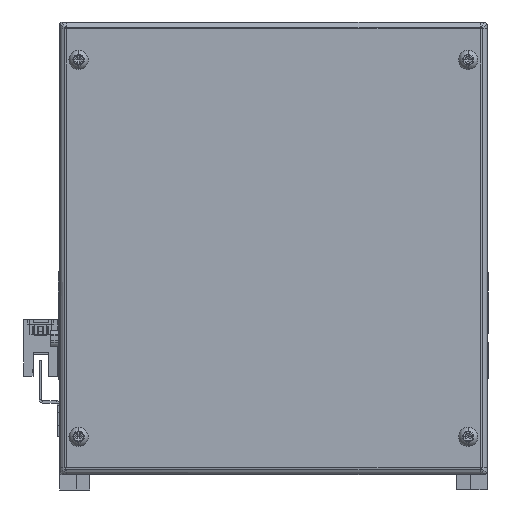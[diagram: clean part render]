
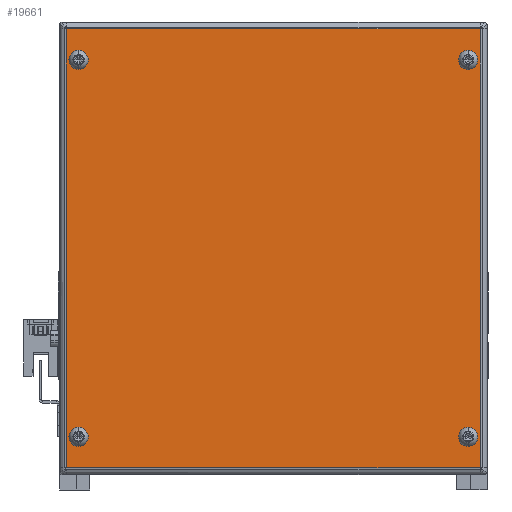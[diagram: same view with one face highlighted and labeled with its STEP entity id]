
A CAD part, front view. The second image highlights one B-rep face of the part: STEP entity #19661.
In plain terms, the highlighted planar face has unit normal (0, -1, 0) as drawn and (0, 0, -1) by its records, which use the part's own axes.
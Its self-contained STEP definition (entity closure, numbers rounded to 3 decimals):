
#459 = EDGE_LOOP ( 'NONE', ( #777, #11965 ) ) ;
#580 = VECTOR ( 'NONE', #26051, 1000. ) ;
#777 = ORIENTED_EDGE ( 'NONE', *, *, #16979, .F. ) ;
#1010 = CARTESIAN_POINT ( 'NONE',  ( -86.233, 45.206, -242.5 ) ) ;
#1752 = EDGE_CURVE ( 'NONE', #6280, #13502, #31637, .T. ) ;
#2369 = CARTESIAN_POINT ( 'NONE',  ( 67.767, -103.794, -242.5 ) ) ;
#2514 = VERTEX_POINT ( 'NONE', #34650 ) ;
#2813 = VERTEX_POINT ( 'NONE', #21665 ) ;
#2887 = CARTESIAN_POINT ( 'NONE',  ( -86.233, 42.956, -242.5 ) ) ;
#3166 = DIRECTION ( 'NONE',  ( 0., 0., -1. ) ) ;
#3483 = EDGE_CURVE ( 'NONE', #22415, #36189, #34590, .T. ) ;
#3502 = EDGE_LOOP ( 'NONE', ( #35186, #35844 ) ) ;
#3505 = DIRECTION ( 'NONE',  ( 0., -1., 0. ) ) ;
#3599 = DIRECTION ( 'NONE',  ( 0., 0., -1. ) ) ;
#3795 = CARTESIAN_POINT ( 'NONE',  ( -86.233, -101.544, -242.5 ) ) ;
#4118 = AXIS2_PLACEMENT_3D ( 'NONE', #34635, #25732, #8110 ) ;
#4556 = DIRECTION ( 'NONE',  ( 0., 1., 0. ) ) ;
#5776 = EDGE_CURVE ( 'NONE', #29867, #2813, #22424, .T. ) ;
#6259 = CIRCLE ( 'NONE', #10371, 2.25 ) ;
#6280 = VERTEX_POINT ( 'NONE', #8804 ) ;
#6406 = DIRECTION ( 'NONE',  ( 0., 0., -1. ) ) ;
#6721 = FACE_BOUND ( 'NONE', #36551, .T. ) ;
#6993 = VERTEX_POINT ( 'NONE', #16996 ) ;
#6995 = VERTEX_POINT ( 'NONE', #2887 ) ;
#7003 = DIRECTION ( 'NONE',  ( 0., 0., -1. ) ) ;
#7010 = CARTESIAN_POINT ( 'NONE',  ( -91.026, 57.469, -242.5 ) ) ;
#8110 = DIRECTION ( 'NONE',  ( 0., -1., 0. ) ) ;
#8527 = LINE ( 'NONE', #11034, #580 ) ;
#8804 = CARTESIAN_POINT ( 'NONE',  ( -90.996, 57.469, -242.5 ) ) ;
#9044 = FACE_BOUND ( 'NONE', #9271, .T. ) ;
#9222 = CARTESIAN_POINT ( 'NONE',  ( 67.767, 45.206, -242.5 ) ) ;
#9271 = EDGE_LOOP ( 'NONE', ( #23975, #12822 ) ) ;
#9720 = CARTESIAN_POINT ( 'NONE',  ( 72.56, -116.058, -242.5 ) ) ;
#9778 = CARTESIAN_POINT ( 'NONE',  ( 67.767, -101.544, -242.5 ) ) ;
#10371 = AXIS2_PLACEMENT_3D ( 'NONE', #14789, #3166, #24068 ) ;
#10846 = EDGE_LOOP ( 'NONE', ( #30780, #13701, #12883, #26566 ) ) ;
#11034 = CARTESIAN_POINT ( 'NONE',  ( 72.531, 57.499, -242.5 ) ) ;
#11965 = ORIENTED_EDGE ( 'NONE', *, *, #5776, .F. ) ;
#11998 = VECTOR ( 'NONE', #4556, 1000. ) ;
#12225 = EDGE_CURVE ( 'NONE', #36189, #22415, #29362, .T. ) ;
#12386 = CARTESIAN_POINT ( 'NONE',  ( -86.233, -103.794, -242.5 ) ) ;
#12503 = DIRECTION ( 'NONE',  ( 0., 0., -1. ) ) ;
#12822 = ORIENTED_EDGE ( 'NONE', *, *, #30595, .F. ) ;
#12883 = ORIENTED_EDGE ( 'NONE', *, *, #14373, .T. ) ;
#13116 = CARTESIAN_POINT ( 'NONE',  ( -86.233, -106.044, -242.5 ) ) ;
#13446 = LINE ( 'NONE', #28296, #11998 ) ;
#13502 = VERTEX_POINT ( 'NONE', #17726 ) ;
#13701 = ORIENTED_EDGE ( 'NONE', *, *, #35622, .T. ) ;
#14154 = CIRCLE ( 'NONE', #19064, 2.25 ) ;
#14224 = DIRECTION ( 'NONE',  ( 0., 0., -1. ) ) ;
#14373 = EDGE_CURVE ( 'NONE', #6993, #6280, #13446, .T. ) ;
#14789 = CARTESIAN_POINT ( 'NONE',  ( -86.233, 45.206, -242.5 ) ) ;
#14850 = VERTEX_POINT ( 'NONE', #13116 ) ;
#15354 = LINE ( 'NONE', #9720, #25664 ) ;
#15399 = VERTEX_POINT ( 'NONE', #18656 ) ;
#15494 = DIRECTION ( 'NONE',  ( 0., 0., -1. ) ) ;
#16506 = CIRCLE ( 'NONE', #21363, 2.25 ) ;
#16544 = FACE_OUTER_BOUND ( 'NONE', #10846, .T. ) ;
#16979 = EDGE_CURVE ( 'NONE', #2813, #29867, #14154, .T. ) ;
#16996 = CARTESIAN_POINT ( 'NONE',  ( -90.996, -116.058, -242.5 ) ) ;
#16999 = PLANE ( 'NONE',  #4118 ) ;
#17494 = CARTESIAN_POINT ( 'NONE',  ( 67.767, -106.044, -242.5 ) ) ;
#17726 = CARTESIAN_POINT ( 'NONE',  ( 72.531, 57.469, -242.5 ) ) ;
#18176 = DIRECTION ( 'NONE',  ( 0., -1., 0. ) ) ;
#18656 = CARTESIAN_POINT ( 'NONE',  ( -86.233, 47.456, -242.5 ) ) ;
#19064 = AXIS2_PLACEMENT_3D ( 'NONE', #33083, #12503, #3505 ) ;
#19379 = EDGE_CURVE ( 'NONE', #6995, #15399, #6259, .T. ) ;
#19514 = ORIENTED_EDGE ( 'NONE', *, *, #35107, .F. ) ;
#19661 = ADVANCED_FACE ( 'NONE', ( #24935, #9044, #6721, #28654, #16544 ), #16999, .T. ) ;
#21023 = CARTESIAN_POINT ( 'NONE',  ( 67.767, 47.456, -242.5 ) ) ;
#21363 = AXIS2_PLACEMENT_3D ( 'NONE', #31066, #7003, #28123 ) ;
#21665 = CARTESIAN_POINT ( 'NONE',  ( 67.767, 42.956, -242.5 ) ) ;
#21899 = VECTOR ( 'NONE', #25032, 1000. ) ;
#22415 = VERTEX_POINT ( 'NONE', #9778 ) ;
#22424 = CIRCLE ( 'NONE', #23870, 2.25 ) ;
#23155 = AXIS2_PLACEMENT_3D ( 'NONE', #2369, #14224, #29454 ) ;
#23870 = AXIS2_PLACEMENT_3D ( 'NONE', #9222, #24901, #33927 ) ;
#23975 = ORIENTED_EDGE ( 'NONE', *, *, #33517, .F. ) ;
#24068 = DIRECTION ( 'NONE',  ( 0., -1., 0. ) ) ;
#24901 = DIRECTION ( 'NONE',  ( 0., 0., -1. ) ) ;
#24935 = FACE_BOUND ( 'NONE', #3502, .T. ) ;
#25032 = DIRECTION ( 'NONE',  ( 1., 0., 0. ) ) ;
#25664 = VECTOR ( 'NONE', #30538, 1000. ) ;
#25701 = CIRCLE ( 'NONE', #28445, 2.25 ) ;
#25732 = DIRECTION ( 'NONE',  ( 0., 0., -1. ) ) ;
#26051 = DIRECTION ( 'NONE',  ( 0., -1., 0. ) ) ;
#26566 = ORIENTED_EDGE ( 'NONE', *, *, #1752, .T. ) ;
#28123 = DIRECTION ( 'NONE',  ( 0., -1., 0. ) ) ;
#28137 = CIRCLE ( 'NONE', #28379, 2.25 ) ;
#28296 = CARTESIAN_POINT ( 'NONE',  ( -90.996, -116.087, -242.5 ) ) ;
#28379 = AXIS2_PLACEMENT_3D ( 'NONE', #12386, #6406, #18176 ) ;
#28445 = AXIS2_PLACEMENT_3D ( 'NONE', #1010, #3599, #30442 ) ;
#28654 = FACE_BOUND ( 'NONE', #459, .T. ) ;
#29362 = CIRCLE ( 'NONE', #23155, 2.25 ) ;
#29454 = DIRECTION ( 'NONE',  ( 0., -1., 0. ) ) ;
#29867 = VERTEX_POINT ( 'NONE', #21023 ) ;
#30442 = DIRECTION ( 'NONE',  ( 0., -1., 0. ) ) ;
#30538 = DIRECTION ( 'NONE',  ( -1., 0., 0. ) ) ;
#30595 = EDGE_CURVE ( 'NONE', #33615, #14850, #16506, .T. ) ;
#30780 = ORIENTED_EDGE ( 'NONE', *, *, #33821, .T. ) ;
#30814 = CARTESIAN_POINT ( 'NONE',  ( 67.767, -103.794, -242.5 ) ) ;
#31066 = CARTESIAN_POINT ( 'NONE',  ( -86.233, -103.794, -242.5 ) ) ;
#31637 = LINE ( 'NONE', #7010, #21899 ) ;
#33083 = CARTESIAN_POINT ( 'NONE',  ( 67.767, 45.206, -242.5 ) ) ;
#33517 = EDGE_CURVE ( 'NONE', #14850, #33615, #28137, .T. ) ;
#33615 = VERTEX_POINT ( 'NONE', #3795 ) ;
#33821 = EDGE_CURVE ( 'NONE', #13502, #2514, #8527, .T. ) ;
#33927 = DIRECTION ( 'NONE',  ( 0., -1., 0. ) ) ;
#34590 = CIRCLE ( 'NONE', #37684, 2.25 ) ;
#34635 = CARTESIAN_POINT ( 'NONE',  ( 41.227, 31.556, -242.5 ) ) ;
#34650 = CARTESIAN_POINT ( 'NONE',  ( 72.531, -116.058, -242.5 ) ) ;
#35107 = EDGE_CURVE ( 'NONE', #15399, #6995, #25701, .T. ) ;
#35186 = ORIENTED_EDGE ( 'NONE', *, *, #12225, .F. ) ;
#35622 = EDGE_CURVE ( 'NONE', #2514, #6993, #15354, .T. ) ;
#35844 = ORIENTED_EDGE ( 'NONE', *, *, #3483, .F. ) ;
#36189 = VERTEX_POINT ( 'NONE', #17494 ) ;
#36243 = DIRECTION ( 'NONE',  ( 0., -1., 0. ) ) ;
#36551 = EDGE_LOOP ( 'NONE', ( #37103, #19514 ) ) ;
#37103 = ORIENTED_EDGE ( 'NONE', *, *, #19379, .F. ) ;
#37684 = AXIS2_PLACEMENT_3D ( 'NONE', #30814, #15494, #36243 ) ;
